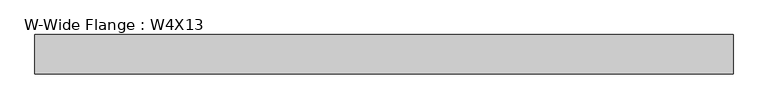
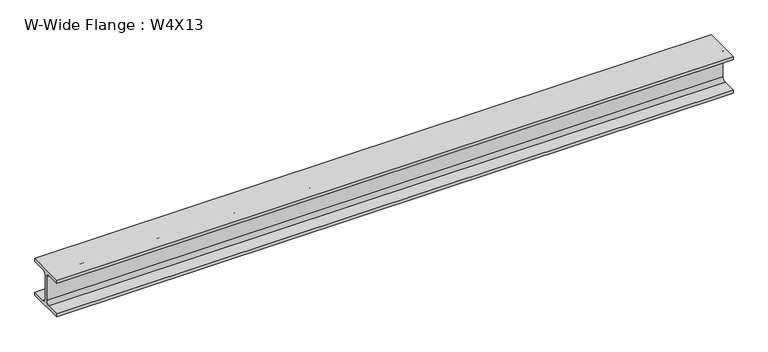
"""IFC4 building model written with IfcOpenShell, lengths in millimetres: beam geometry, W-Wide Flange : W4X13."""

from ifc_helpers import new_model, si_unit, point, frame, frame_2d, origin, place, context, project, spatial, polyline, circle_curve, trimmed, segment, composite_curve, outline, extrude, source, transform, mapped, element, save


def w_wide_flange_w4x13_6fcfec7e(model_context):
    return source(origin(), model_context, "Body", "SweptSolid", [
        extrude(outline(composite_curve([segment(polyline([(51.562, -44.069), (51.562, -52.832), (-51.562, -52.832), (-51.562, -44.069), (-13.843, -44.069)]), True, "CONTINUOUS"), segment(trimmed(circle_curve(frame_2d((-13.843, -33.782)), 10.287), [point((-13.843, -44.069))], [point((-3.556, -33.782))], True, "CARTESIAN"), True, "CONTINUOUS"), segment(polyline([(-3.556, -33.782), (-3.556, 33.782)]), True, "CONTINUOUS"), segment(trimmed(circle_curve(frame_2d((-13.843, 33.782)), 10.287), [point((-3.556, 33.782))], [point((-13.843, 44.069))], True, "CARTESIAN"), True, "CONTINUOUS"), segment(polyline([(-13.843, 44.069), (-51.562, 44.069), (-51.562, 52.832), (51.562, 52.832), (51.562, 44.069), (13.843, 44.069)]), True, "CONTINUOUS"), segment(trimmed(circle_curve(frame_2d((13.843, 33.782)), 10.287), [point((13.843, 44.069))], [point((3.556, 33.782))], True, "CARTESIAN"), True, "CONTINUOUS"), segment(polyline([(3.556, 33.782), (3.556, -33.782)]), True, "CONTINUOUS"), segment(trimmed(circle_curve(frame_2d((13.843, -33.782)), 10.287), [point((3.556, -33.782))], [point((13.843, -44.069))], True, "CARTESIAN"), True, "CONTINUOUS"), segment(polyline([(13.843, -44.069), (51.562, -44.069)]), True, "CONTINUOUS")], self_intersect=False)), frame((-1032.3697121, 0.0, 0.0), z_axis=(1.0, 0.0, 0.0), x_axis=(0.0, 1.0, 0.0)), (0.0, 0.0, 1.0), 1836.3315481),
    ])


if __name__ == "__main__":
    model = new_model("IFC4")
    model_context = context("Model", 3, world=origin())
    ifc_project = project(units=[si_unit("LENGTHUNIT", "METRE", prefix="MILLI")], contexts=[model_context])
    site = spatial("IfcSite", under=ifc_project)
    building = spatial("IfcBuilding", under=site)
    placement = place(None, origin())
    w_wide_flange_w4x13_shape = w_wide_flange_w4x13_6fcfec7e(model_context)
    element("IfcBeam", 1, ObjectType="W-Wide Flange : W4X13", at=placement, inside=building, context=model_context, shape_type="MappedRepresentation", body=[
        mapped(w_wide_flange_w4x13_shape, transform((0.0, 0.0, 0.0), x_axis=(1.0, 0.0, 0.0), y_axis=(0.0, 1.0, 0.0), z_axis=(0.0, 0.0, 1.0))),
    ])
    save(model, "model.ifc")
